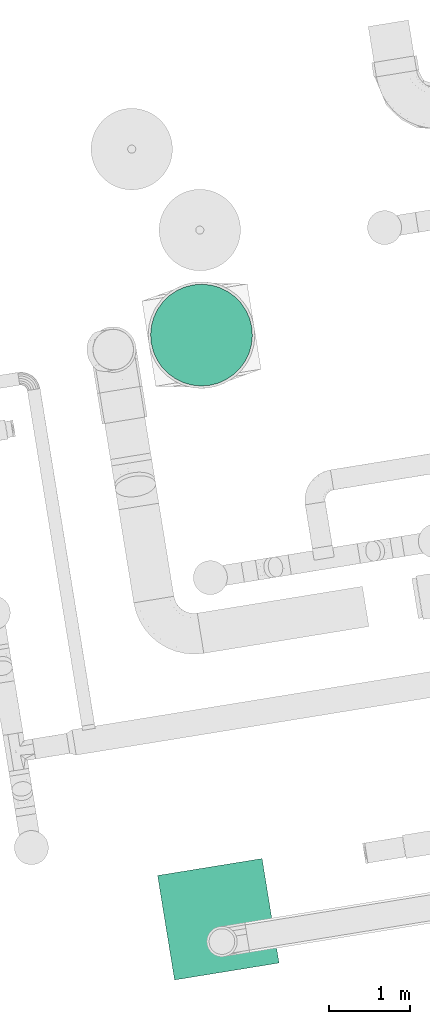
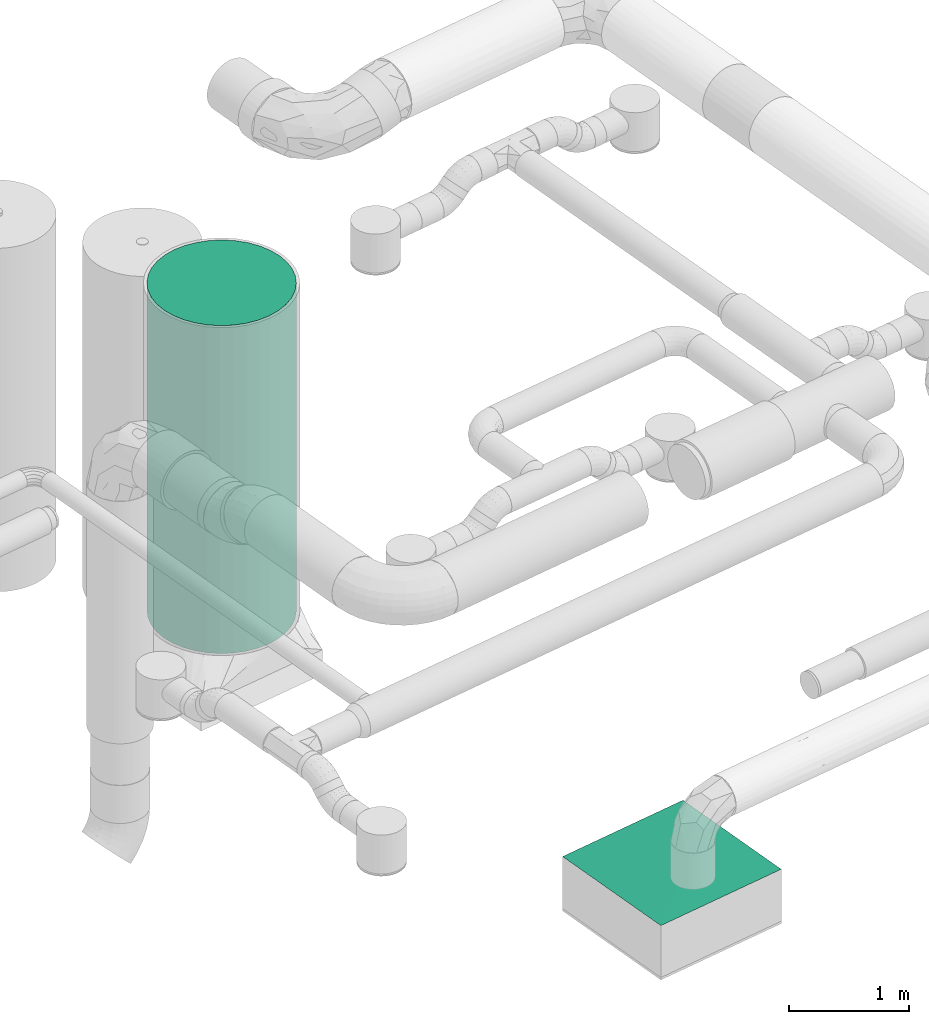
# One storey, part 26 of 39: 1 flow fitting, 1 flow segment.
"""IFC2X3 building model written with IfcOpenShell, lengths in millimetres."""

import ifcopenshell
import ifcopenshell.guid

model = None  # the IFC model being written
_history = None  # IfcOwnerHistory: only IFC2X3 demands one
_inside = {}  # id of a spatial element -> (the spatial element, [elements in it])
_under = {}  # id of a project, library or spatial element -> (it, [spatial elements below it])
_declared = {}  # id of a project -> (the project, [libraries it declares])
_typed = {}  # id of a type object -> (the type object, [elements of that type])
_made_of = {}  # id of a material, layer set ... -> (it, [elements and type objects made of it])


def new_model(schema):
    """Start an empty IFC model of exactly this schema.

    Asked for "IFC4X3", IfcOpenShell would pick the latest addendum, in which some entities
    have other attributes; the version numbers below select the first issue.
    IFC2X3 requires an IfcOwnerHistory on every rooted entity: one is made here for all.
    """
    global model, _history
    if schema == "IFC4X3":
        model = ifcopenshell.file(schema_version=(4, 3, 0, 0))
    else:
        model = ifcopenshell.file(schema=schema)
    _inside.clear()
    _under.clear()
    _declared.clear()
    _typed.clear()
    _made_of.clear()
    _history = None
    if model.schema == "IFC2X3":
        org = make("IfcOrganization", Name="unknown")
        user = make(
            "IfcPersonAndOrganization",
            ThePerson=make("IfcPerson", FamilyName="unknown"),
            TheOrganization=org,
        )
        app = make(
            "IfcApplication",
            ApplicationDeveloper=org,
            Version="unknown",
            ApplicationFullName="unknown",
            ApplicationIdentifier="unknown",
        )
        _history = make(
            "IfcOwnerHistory",
            OwningUser=user,
            OwningApplication=app,
            ChangeAction="ADDED",
            CreationDate=0,
        )
    return model


def make(cls, **values):
    """One entity of the class cls with the attributes given. An attribute that is None is left unset."""
    return model.create_entity(
        cls, **{name: value for name, value in values.items() if value is not None}
    )


def entity(cls, *values):
    """Any entity or typed value of the class cls, its attributes in the order of the schema. None: left unset."""
    e = model.create_entity(cls)
    for i, value in enumerate(values):
        if value is not None:
            e[i] = value
    return e


def rooted(cls, **values):
    """An entity with a GlobalId (a new one), such as an element, a storey or a relation."""
    return make(cls, GlobalId=ifcopenshell.guid.new(), OwnerHistory=_history, **values)


def si_unit(unit_type, name, prefix=None):
    """IfcSIUnit, for example si_unit("LENGTHUNIT", "METRE", prefix="MILLI")."""
    return make("IfcSIUnit", UnitType=unit_type, Prefix=prefix, Name=name)


def converted_unit(unit_type, name, factor, base, dimensions=None, offset=None):
    """IfcConversionBasedUnit, such as the inch: factor (a typed value) times the base unit."""
    return make(
        "IfcConversionBasedUnit"
        if offset is None
        else "IfcConversionBasedUnitWithOffset",
        ConversionOffset=offset,
        Dimensions=None
        if dimensions is None
        else entity("IfcDimensionalExponents", *dimensions),
        UnitType=unit_type,
        Name=name,
        ConversionFactor=make(
            "IfcMeasureWithUnit", ValueComponent=factor, UnitComponent=base
        ),
    )


def derived_unit(unit_type, elements):
    """IfcDerivedUnit: a product of units, each with its exponent."""
    return make(
        "IfcDerivedUnit",
        Elements=[
            make("IfcDerivedUnitElement", Unit=unit, Exponent=power)
            for unit, power in elements
        ],
        UnitType=unit_type,
    )


def assignment(units):
    """IfcUnitAssignment: the units of a project."""
    return None if units is None else make("IfcUnitAssignment", Units=units)


def point(xyz):
    """IfcCartesianPoint."""
    return None if xyz is None else make("IfcCartesianPoint", Coordinates=xyz)


def direction(xyz):
    """IfcDirection."""
    return None if xyz is None else make("IfcDirection", DirectionRatios=xyz)


def frame(location, z_axis=None, x_axis=None):
    """IfcAxis2Placement3D, a coordinate frame: its origin and axes. An axis left out is left unset."""
    return make(
        "IfcAxis2Placement3D",
        Location=point(location),
        Axis=direction(z_axis),
        RefDirection=direction(x_axis),
    )


def origin():
    """The frame at (0, 0, 0) with its axes left unset."""
    return frame((0.0, 0.0, 0.0))


def origin_with_axes():
    """The frame at (0, 0, 0) with the z axis (0, 0, 1) and the x axis (1, 0, 0) written out."""
    return frame((0.0, 0.0, 0.0), z_axis=(0.0, 0.0, 1.0), x_axis=(1.0, 0.0, 0.0))


def place(relative_to, where):
    """IfcLocalPlacement: puts the frame where relative to a parent placement (None: the world)."""
    return make(
        "IfcLocalPlacement", PlacementRelTo=relative_to, RelativePlacement=where
    )


def context(
    kind, dimensions, precision=None, world=None, true_north=None, identifier=None
):
    """IfcGeometricRepresentationContext, for example the 3D "Model" context."""
    return make(
        "IfcGeometricRepresentationContext",
        ContextIdentifier=identifier,
        ContextType=kind,
        CoordinateSpaceDimension=dimensions,
        Precision=precision,
        WorldCoordinateSystem=world,
        TrueNorth=true_north,
    )


def subcontext(parent, identifier, kind, view, scale=None):
    """IfcGeometricRepresentationSubContext, for example "Body" below "Model"."""
    return make(
        "IfcGeometricRepresentationSubContext",
        ContextIdentifier=identifier,
        ContextType=kind,
        ParentContext=parent,
        TargetScale=scale,
        TargetView=view,
    )


def project(units=None, contexts=None):
    """IfcProject with its units and contexts."""
    return rooted(
        "IfcProject",
        Name="project",
        RepresentationContexts=contexts,
        UnitsInContext=assignment(units),
    )


def spatial(cls, under=None, at=None, **own):
    """A site, building, storey or space (cls), placed at a placement, below another one or the project."""
    s = rooted(cls, ObjectPlacement=at, **own)
    if under is not None:
        _under.setdefault(under.id(), (under, []))[1].append(s)
    return s


def faces_of(points, faces, orient=None, outer=None):
    """IfcFace entities. A face is a list of loops; a loop is a list of indices into points, from 0.

    orient and outer hold one flag for each loop. By default every Orientation is true, the
    first loop of a face is its IfcFaceOuterBound and the others are IfcFaceBound.
    """
    made = []
    for i, loops in enumerate(faces):
        bounds = []
        for j, loop in enumerate(loops):
            is_outer = j == 0 if outer is None else outer[i][j]
            bounds.append(
                make(
                    "IfcFaceOuterBound" if is_outer else "IfcFaceBound",
                    Bound=make("IfcPolyLoop", Polygon=[points[k] for k in loop]),
                    Orientation=True if orient is None else orient[i][j],
                )
            )
        made.append(make("IfcFace", Bounds=bounds))
    return made


def faceted_brep(points, faces, orient=None, outer=None, voids=None):
    """IfcFacetedBrep: a solid bounded by flat faces; with voids (closed shells), ...WithVoids."""
    shared = [point(p) for p in points]
    hull = make("IfcClosedShell", CfsFaces=faces_of(shared, faces, orient, outer))
    if voids is None:
        return make("IfcFacetedBrep", Outer=hull)
    return make(
        "IfcFacetedBrepWithVoids",
        Outer=hull,
        Voids=[
            make(cls, CfsFaces=faces_of(shared, fs, o, b)) for cls, fs, o, b in voids
        ],
    )


def shape(context_of_items, identifier, shape_type, items):
    """IfcShapeRepresentation: the items that make up one representation, for example the "Body"."""
    return make(
        "IfcShapeRepresentation",
        ContextOfItems=context_of_items,
        RepresentationIdentifier=identifier,
        RepresentationType=shape_type,
        Items=items,
    )


def source(mapping_origin, context_of_items, identifier, shape_type, items):
    """IfcRepresentationMap: a shape defined once, which mapped items show again and again."""
    return make(
        "IfcRepresentationMap",
        MappingOrigin=mapping_origin,
        MappedRepresentation=shape(context_of_items, identifier, shape_type, items),
    )


def transform(
    local_origin,
    x_axis=None,
    y_axis=None,
    z_axis=None,
    scale=None,
    scale2=None,
    scale3=None,
    uniform=True,
):
    """IfcCartesianTransformationOperator3D, or its non-uniform kind. x_axis, y_axis, z_axis: its Axis1, 2, 3."""
    if uniform:
        return make(
            "IfcCartesianTransformationOperator3D",
            Axis1=direction(x_axis),
            Axis2=direction(y_axis),
            LocalOrigin=point(local_origin),
            Scale=scale,
            Axis3=direction(z_axis),
        )
    return make(
        "IfcCartesianTransformationOperator3DnonUniform",
        Axis1=direction(x_axis),
        Axis2=direction(y_axis),
        LocalOrigin=point(local_origin),
        Scale=scale,
        Axis3=direction(z_axis),
        Scale2=scale2,
        Scale3=scale3,
    )


def mapped(mapping_source, mapping_target):
    """IfcMappedItem: shows the shape of a source again, moved by a transform."""
    return make(
        "IfcMappedItem", MappingSource=mapping_source, MappingTarget=mapping_target
    )


def material(Name=None, Category=None):
    """IfcMaterial."""
    return make("IfcMaterial", Name=Name, Category=Category)


def made_of(thing, what):
    """Note that an element or type object is made of a material, layer set ...; save() writes the relation."""
    if what is not None:
        _made_of.setdefault(what.id(), (what, []))[1].append(thing)
    return thing


def type_object(cls, material=None, **own):
    """A type object (cls), such as IfcWallType, which elements share."""
    return made_of(rooted(cls, **own), material)


def element(
    cls,
    number,
    at=None,
    inside=None,
    cuts=None,
    type_object=None,
    material=None,
    context=None,
    identifier="Body",
    shape_type=None,
    held_by="IfcProductDefinitionShape",
    body=None,
    shapes=None,
    **own,
):
    """One element of the class cls, such as IfcWall. Its Tag is "e" and its number.

    at: its placement. inside: the storey or other place that contains it. cuts: it is an
    opening in that element (IfcRelVoidsElement). A single representation is given by context,
    identifier, shape_type and body (its items); several are given by shapes. held_by: the class
    of the entity that holds the representations. save() writes the other relations.
    """
    e = rooted(cls, Tag="e%d" % number, ObjectPlacement=at, **own)
    if body is not None:
        shapes = [shape(context, identifier, shape_type, body)]
    if shapes is not None:
        e.Representation = make(held_by, Representations=shapes)
    if inside is not None:
        _inside.setdefault(inside.id(), (inside, []))[1].append(e)
    if cuts is not None:
        rooted(
            "IfcRelVoidsElement", RelatingBuildingElement=cuts, RelatedOpeningElement=e
        )
    if type_object is not None:
        _typed.setdefault(type_object.id(), (type_object, []))[1].append(e)
    return made_of(e, material)


def aggregate(whole, parts):
    """IfcRelAggregates: a whole, such as a stair, and the parts it consists of."""
    return rooted("IfcRelAggregates", RelatingObject=whole, RelatedObjects=parts)


def save(model, path):
    """Write the relations noted so far, then the file.

    IfcRelAggregates (storeys below a building ...), IfcRelContainedInSpatialStructure (elements
    in a storey), IfcRelDefinesByType, IfcRelAssociatesMaterial and IfcRelDeclares: one each for
    every whole, place, type object, material and project.
    """
    for whole, parts in _under.values():
        aggregate(whole, parts)
    for where, things in _inside.values():
        rooted(
            "IfcRelContainedInSpatialStructure",
            RelatedElements=things,
            RelatingStructure=where,
        )
    for kind, things in _typed.values():
        rooted("IfcRelDefinesByType", RelatedObjects=things, RelatingType=kind)
    for what, things in _made_of.values():
        rooted("IfcRelAssociatesMaterial", RelatedObjects=things, RelatingMaterial=what)
    for by, libraries in _declared.values():
        rooted("IfcRelDeclares", RelatingContext=by, RelatedDefinitions=libraries)
    model.write(path)


model = new_model("IFC2X3")

# Units and contexts
model_context = context("Model", 3, precision=0.01, world=origin(), true_north=direction((6.12323399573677e-17, 1.0)))
plan_context = context("Plan", 3, precision=1e-05, world=origin_with_axes())
body_context = subcontext(model_context, "Body", "Model", "MODEL_VIEW")
ifc_project = project(units=[converted_unit("PLANEANGLEUNIT", "DEGREE", entity("IfcPositiveLengthMeasure", 0.0174532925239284), si_unit("PLANEANGLEUNIT", "RADIAN"), dimensions=[0, 0, 0, 0, 0, 0, 0]), si_unit("AREAUNIT", "SQUARE_METRE"), si_unit("LENGTHUNIT", "METRE", prefix="MILLI"), si_unit("MASSUNIT", "GRAM", prefix="KILO"), si_unit("POWERUNIT", "WATT"), si_unit("PRESSUREUNIT", "PASCAL", prefix="KILO"), si_unit("FORCEUNIT", "NEWTON", prefix="KILO"), si_unit("ELECTRICVOLTAGEUNIT", "VOLT"), si_unit("ELECTRICCURRENTUNIT", "AMPERE"), si_unit("THERMODYNAMICTEMPERATUREUNIT", "DEGREE_CELSIUS"), si_unit("TIMEUNIT", "SECOND"), si_unit("VOLUMEUNIT", "CUBIC_METRE"), derived_unit("LINEARVELOCITYUNIT", [(si_unit("LENGTHUNIT", "METRE"), 1), (si_unit("TIMEUNIT", "SECOND"), -1)]), derived_unit("VOLUMETRICFLOWRATEUNIT", [(si_unit("VOLUMEUNIT", "CUBIC_METRE"), 1), (si_unit("TIMEUNIT", "SECOND"), -1)]), derived_unit("THERMALTRANSMITTANCEUNIT", [(si_unit("POWERUNIT", "WATT"), 1), (si_unit("THERMODYNAMICTEMPERATUREUNIT", "KELVIN"), -1), (si_unit("AREAUNIT", "SQUARE_METRE"), -1)]), derived_unit("SOUNDPRESSUREUNIT", [(si_unit("PRESSUREUNIT", "PASCAL"), 1)])], contexts=[model_context, plan_context])

# Site, building, storey
site_placement = place(None, frame((-0.00071070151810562, 0.00438415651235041, 0.0), z_axis=(0.0, 0.0, 1.0), x_axis=(-0.160236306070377, 0.987078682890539, 0.0)))
site = spatial("IfcSite", under=ifc_project, at=site_placement, Name="Default", CompositionType="ELEMENT")
building_placement = place(site_placement, origin_with_axes())
building = spatial("IfcBuilding", under=site, at=building_placement, CompositionType="ELEMENT")
storey_placement = place(building_placement, frame((0.0, 0.0, 50999.9999999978), z_axis=(0.0, 0.0, 1.0), x_axis=(1.0, 0.0, 0.0)))
storey = spatial("IfcBuildingStorey", under=building, at=storey_placement, Name="Nivå D", CompositionType="ELEMENT", Elevation=50999.9999999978)

# Flow fitting
ifc_material = material(Name="Material_Duct")
duct_fitting_type = type_object("IfcDuctFittingType", Name="magicirc_multi_shape_trans_001:magicirc_multi_shape_trans_001", PredefinedType="NOTDEFINED", material=ifc_material)
shared_shape = source(origin(), body_context, "Body", "Brep", [
    faceted_brep([(10.0, 237.022991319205, -152.133317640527), (10.0, 262.686560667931, -155.511990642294), (10.0, 277.786990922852, -157.499999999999), (10.0, 296.267684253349, -155.066970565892), (10.0, 318.550990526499, -152.133317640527), (10.0, 337.543990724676, -144.266159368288), (10.0, 356.536990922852, -136.399001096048), (10.0, 372.846649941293, -123.884159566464), (10.0, 389.156308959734, -111.36931803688), (10.0, 401.671150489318, -95.0596590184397), (10.0, 414.185992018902, -78.7499999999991), (10.0, 418.119571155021, -69.2534999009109), (10.0, 422.053150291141, -59.7569998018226), (10.0, 429.920308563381, -40.7639996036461), (10.0, 432.853961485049, -18.4806933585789), (10.0, 435.286990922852, 0.0), (10.0, 432.853961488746, 18.4806933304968), (10.0, 429.920308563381, 40.7639996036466), (10.0, 422.053150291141, 59.7569998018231), (10.0, 414.185992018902, 78.7499999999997), (10.0, 401.671150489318, 95.0596590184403), (10.0, 389.156308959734, 111.369318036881), (10.0, 372.846649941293, 123.884159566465), (10.0, 356.536990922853, 136.399001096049), (10.0, 347.040490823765, 140.332580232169), (10.0, 337.543990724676, 144.266159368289), (10.0, 318.5509905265, 152.133317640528), (10.0, 296.267684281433, 155.066970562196), (10.0, 277.786990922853, 157.5), (10.0, 262.686560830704, 155.511990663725), (10.0, 237.022991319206, 152.133317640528), (10.0, 218.029991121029, 144.266159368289), (10.0, 199.036990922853, 136.399001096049), (10.0, 182.727331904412, 123.884159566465), (10.0, 166.417672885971, 111.369318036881), (10.0, 153.902831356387, 95.0596590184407), (10.0, 141.387989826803, 78.7500000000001), (10.0, 133.520831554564, 59.7569998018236), (10.0, 125.653673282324, 40.7639996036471), (10.0, 122.275000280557, 15.1004302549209), (10.0, 120.286990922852, 0.0), (10.0, 122.275000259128, -15.1004300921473), (10.0, 125.653673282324, -40.7639996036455), (10.0, 133.520831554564, -59.756999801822), (10.0, 141.387989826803, -78.7499999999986), (10.0, 153.902831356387, -95.0596590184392), (10.0, 166.417672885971, -111.36931803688), (10.0, 182.727331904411, -123.884159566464), (10.0, 199.036990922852, -136.399001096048), (10.0, 218.029991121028, -144.266159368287), (0.0, -650.0, 650.0), (0.0, 650.0, 650.0), (0.0, 650.0, -650.0), (0.0, -650.0, -650.0), (5.57157114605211, -220.829122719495, 287.847875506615), (6.42658140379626, -95.4588482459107, 324.498018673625), (3.89289294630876, -315.637000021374, 452.100620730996), (6.63310997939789, -93.2194982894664, 305.31587052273), (8.89289278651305, 35.0079625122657, 71.9619688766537), (7.78578557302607, -50.2710658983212, 143.923937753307), (4.17867854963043, -262.307640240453, 444.200081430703), (7.04839735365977, -28.9970224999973, 297.86737466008), (5.57157139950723, -133.076853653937, 375.60010857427), (2.6956321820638, -431.693052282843, 502.924739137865), (5.0, -237.128754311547, 384.985769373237), (4.33514327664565, -307.509305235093, 401.316805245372), (1.39289278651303, -542.707280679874, 559.461968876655), (2.78578557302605, -435.414561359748, 468.923937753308), (8.89289284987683, 175.071029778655, 212.025027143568), (7.78578569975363, 72.3550686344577, 266.550054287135), (6.56698463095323, -132.1578938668, 271.49428102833), (7.26062208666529, -84.8827093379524, 214.139740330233), (4.17867835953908, -328.121842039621, 378.385906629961), (2.78578569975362, -391.538426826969, 512.800054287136), (7.04171293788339, -82.0422208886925, 263.094621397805), (7.5670191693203, -28.5005193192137, 245.974828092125), (1.39289284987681, -520.769213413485, 581.400027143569), (1.39289284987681, -542.707275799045, -559.461964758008), (2.78578569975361, -435.414551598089, -468.923929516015), (4.17867854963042, -328.121827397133, -378.385894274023), (5.57157139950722, -220.829103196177, -287.847859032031), (7.78578569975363, -50.2710561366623, -143.923929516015), (8.89289284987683, 35.0079673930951, -71.9619647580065), (5.5715711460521, -133.076877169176, -375.600121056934), (6.42658140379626, -145.975947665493, -273.980919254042), (3.89289294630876, -343.961118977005, -423.776501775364), (6.63310997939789, -121.056704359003, -277.478664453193), (8.89289278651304, 175.071023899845, -212.025030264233), (7.78578557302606, 72.3550568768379, -266.550060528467), (7.04839735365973, -102.072065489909, -224.792331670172), (2.69563218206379, -428.043583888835, -506.574207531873), (5.0, -246.092273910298, -376.022249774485), (4.33514327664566, -280.892164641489, -427.933945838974), (1.39289278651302, -520.769219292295, -581.400030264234), (2.78578557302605, -391.538438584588, -512.800060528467), (6.56698463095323, -89.0719910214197, -314.58018387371), (7.26062208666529, -12.4491041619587, -286.573345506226), (4.17867835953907, -262.307657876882, -444.200090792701), (7.0417129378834, -67.4849966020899, -277.651845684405), (7.5670191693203, -35.7728795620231, -238.702467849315), (2.10686611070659, 571.579702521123, -546.2368440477), (4.21373222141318, 493.159405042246, -442.473688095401), (4.93701569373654, 466.237853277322, -406.851977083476), (5.6602991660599, 439.316301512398, -371.23026607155), (7.10686611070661, 385.473197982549, -299.9868440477), (8.55343305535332, 331.630094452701, -228.743422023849), (6.42782437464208, 457.491440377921, -321.992485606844), (5.0, 513.1996637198, -386.404106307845), (8.55343299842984, 466.346666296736, -94.0268551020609), (5.66029899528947, 528.466017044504, -282.080565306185), (7.10686599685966, 497.40634167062, -188.053710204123), (6.42782443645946, 500.549083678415, -278.934836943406), (5.71013844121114, 507.910511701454, -334.743987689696), (4.21373199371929, 559.525692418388, -376.107420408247), (2.10686599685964, 604.762846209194, -513.053710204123), (2.10686611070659, 604.762843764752, 513.053702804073), (4.21373222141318, 559.525687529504, 376.107405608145), (4.93701569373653, 543.995850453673, 329.093979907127), (5.66029916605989, 528.466013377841, 282.080554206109), (7.1068661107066, 497.406339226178, 188.053702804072), (8.55343305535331, 466.346665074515, 94.026851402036), (6.42782437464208, 500.549084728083, 278.934841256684), (5.0, 525.297601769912, 374.306168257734), (8.55343299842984, 331.630096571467, 228.743424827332), (5.66029899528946, 439.316307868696, 371.230274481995), (7.10686599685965, 385.473202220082, 299.986849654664), (6.42782443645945, 457.491437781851, 321.992482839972), (5.71013844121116, 493.36420522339, 349.290294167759), (4.21373199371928, 493.15941351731, 442.473699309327), (2.10686599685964, 571.579706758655, 546.236849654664)], [[[0, 1, 2, 3, 4, 5, 6, 7, 8, 9, 10, 11, 12, 13, 14, 15, 16, 17, 18, 19, 20, 21, 22, 23, 24, 25, 26, 27, 28, 29, 30, 31, 32, 33, 34, 35, 36, 37, 38, 39, 40, 41, 42, 43, 44, 45, 46, 47, 48, 49]], [[50, 51, 52, 53]], [[54, 38, 37]], [[55, 56, 57]], [[58, 40, 39, 38, 54, 59]], [[60, 61, 62]], [[56, 63, 64]], [[65, 66, 67]], [[64, 63, 65]], [[29, 28, 68, 69, 62, 30]], [[61, 60, 55]], [[70, 36, 35]], [[71, 70, 72]], [[55, 73, 56]], [[74, 35, 34]], [[74, 34, 75]], [[71, 54, 37]], [[63, 50, 66]], [[70, 35, 74]], [[70, 74, 65]], [[65, 67, 70]], [[64, 65, 74]], [[70, 67, 72]], [[54, 71, 72]], [[37, 36, 71]], [[70, 71, 36]], [[65, 63, 66]], [[63, 56, 76]], [[76, 56, 73]], [[76, 50, 63]], [[33, 57, 75]], [[56, 64, 57]], [[55, 33, 32]], [[32, 61, 55]], [[75, 57, 64]], [[33, 55, 57]], [[74, 75, 64]], [[33, 75, 34]], [[62, 31, 30]], [[32, 31, 61]], [[60, 73, 55]], [[31, 62, 61]], [[50, 53, 77, 78, 79, 80, 81, 82, 40, 58, 59, 54, 72, 67, 66]], [[83, 0, 49]], [[84, 85, 86]], [[87, 2, 1, 0, 83, 88]], [[79, 89, 80]], [[85, 90, 91]], [[92, 93, 94]], [[91, 90, 92]], [[41, 40, 82, 81, 80, 42]], [[89, 79, 84]], [[95, 48, 47]], [[96, 95, 97]], [[84, 78, 85]], [[98, 47, 46]], [[98, 46, 99]], [[96, 83, 49]], [[90, 53, 93]], [[95, 47, 98]], [[95, 98, 92]], [[92, 94, 95]], [[91, 92, 98]], [[95, 94, 97]], [[83, 96, 97]], [[49, 48, 96]], [[95, 96, 48]], [[92, 90, 93]], [[90, 85, 77]], [[77, 85, 78]], [[77, 53, 90]], [[45, 86, 99]], [[85, 91, 86]], [[84, 45, 44]], [[44, 89, 84]], [[99, 86, 91]], [[45, 84, 86]], [[98, 99, 91]], [[45, 99, 46]], [[80, 43, 42]], [[44, 43, 89]], [[79, 78, 84]], [[43, 80, 89]], [[87, 88, 83, 97, 94, 93, 53, 52, 100, 101, 102, 103, 104, 105, 2]], [[101, 5, 103, 102]], [[106, 107, 7]], [[108, 15, 14, 13, 109, 110]], [[103, 4, 3, 2, 105, 104]], [[52, 107, 100]], [[111, 10, 9]], [[8, 107, 112]], [[113, 12, 11, 10]], [[109, 13, 12]], [[101, 6, 5]], [[4, 103, 5]], [[12, 113, 109]], [[101, 100, 106]], [[9, 8, 112]], [[113, 10, 111]], [[7, 6, 106]], [[107, 8, 7]], [[112, 52, 114]], [[52, 112, 107]], [[111, 112, 114]], [[101, 106, 6]], [[107, 106, 100]], [[112, 111, 9]], [[113, 111, 114]], [[52, 51, 115, 116, 117, 118, 119, 120, 15, 108, 110, 109, 113, 114]], [[116, 18, 118, 117]], [[121, 122, 20]], [[123, 28, 27, 26, 124, 125]], [[118, 17, 16, 15, 120, 119]], [[51, 122, 115]], [[126, 23, 22]], [[21, 122, 127]], [[128, 25, 24, 23]], [[124, 26, 25]], [[116, 19, 18]], [[17, 118, 18]], [[25, 128, 124]], [[116, 115, 121]], [[22, 21, 127]], [[128, 23, 126]], [[20, 19, 121]], [[122, 21, 20]], [[127, 51, 129]], [[51, 127, 122]], [[126, 127, 129]], [[116, 121, 19]], [[122, 121, 115]], [[127, 126, 22]], [[128, 126, 129]], [[51, 50, 76, 73, 60, 62, 69, 68, 28, 123, 125, 124, 128, 129]]]),
])
flow_fitting_placement = place(storey_placement, frame((769512.619644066, -595189.746741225, 2555.0), z_axis=(0.0, -1.0, 0.0), x_axis=(0.0, 0.0, 1.0)))
element("IfcFlowFitting", 1, at=flow_fitting_placement, inside=storey, type_object=duct_fitting_type, material=ifc_material, Name="magicirc_multi_shape_trans_001:magicirc_multi_shape_trans_001", ObjectType="magicirc_multi_shape_trans_001:magicirc_multi_shape_trans_001", context=body_context, shape_type="MappedRepresentation", body=[
    mapped(shared_shape, transform((0.0, 0.0, 0.0), scale=1.0)),
])

# Flow segment
duct_segment_type = type_object("IfcDuctSegmentType", Name="Round Duct:KK001T - Spiro kanaler, Forsinket stål", PredefinedType="NOTDEFINED")
flow_segment_placement = place(storey_placement, origin_with_axes())
element("IfcFlowSegment", 2, at=flow_segment_placement, inside=storey, type_object=duct_segment_type, Name="Round Duct:KK001T - Spiro kanaler, Forsinket stål", ObjectType="Round Duct:KK001T - Spiro kanaler, Forsinket stål", context=body_context, shape_type="Brep", body=[
    faceted_brep([(776517.922586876, -596750.591457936, 4200.0), (776626.452697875, -596760.086612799, 4200.0), (776626.452697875, -596760.086612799, 852.130781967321), (776517.922586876, -596750.591457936, 852.130781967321), (776734.98280896, -596750.591458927, 4200.0), (776734.98280896, -596750.591458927, 852.130781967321), (776840.215287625, -596722.394501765, 4200.0), (776840.215287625, -596722.394501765, 852.130781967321), (776938.952698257, -596676.35249159, 4200.0), (776938.952698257, -596676.35249159, 852.130781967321), (777028.194954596, -596613.864391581, 4200.0), (777028.194954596, -596613.864391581, 852.130781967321), (777105.230475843, -596536.828871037, 4200.0), (777105.230475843, -596536.828871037, 852.130781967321), (777167.718576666, -596447.586615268, 4200.0), (777167.718576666, -596447.586615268, 852.130781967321), (777213.760587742, -596348.849205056, 4200.0), (777213.760587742, -596348.849205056, 852.130781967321), (777241.957545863, -596243.616726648, 4200.0), (777241.957545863, -596243.616726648, 852.130781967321), (777251.452700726, -596135.08661565, 4200.0), (777251.452700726, -596135.08661565, 852.130781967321), (777241.957546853, -596026.556504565, 4200.0), (777241.957546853, -596026.556504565, 852.130781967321), (777213.760589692, -595921.324025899, 4200.0), (777213.760589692, -595921.324025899, 852.130781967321), (777167.718579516, -595822.586615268, 4200.0), (777167.718579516, -595822.586615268, 852.130781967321), (777105.230479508, -595733.344358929, 4200.0), (777105.230479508, -595733.344358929, 852.130781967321), (777028.194958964, -595656.308837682, 4200.0), (777028.194958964, -595656.308837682, 852.130781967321), (776938.952703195, -595593.820736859, 4200.0), (776938.952703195, -595593.820736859, 852.130781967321), (776840.215292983, -595547.778725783, 4200.0), (776840.215292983, -595547.778725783, 852.130781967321), (776734.982814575, -595519.581767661, 4200.0), (776734.982814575, -595519.581767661, 852.130781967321), (776626.452703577, -595510.086612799, 4200.0), (776626.452703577, -595510.086612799, 852.130781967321), (776517.922592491, -595519.581766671, 4200.0), (776517.922592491, -595519.581766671, 852.130781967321), (776412.690113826, -595547.778723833, 4200.0), (776412.690113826, -595547.778723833, 852.130781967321), (776313.952703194, -595593.820734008, 4200.0), (776313.952703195, -595593.820734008, 852.130781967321), (776224.710446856, -595656.308834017, 4200.0), (776224.710446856, -595656.308834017, 852.130781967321), (776147.674925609, -595733.344354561, 4200.0), (776147.674925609, -595733.344354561, 852.130781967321), (776085.186824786, -595822.58661033, 4200.0), (776085.186824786, -595822.58661033, 852.130781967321), (776039.144813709, -595921.324020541, 4200.0), (776039.14481371, -595921.324020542, 852.130781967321), (776010.947855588, -596026.55649895, 4200.0), (776010.947855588, -596026.55649895, 852.130781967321), (776001.452700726, -596135.086609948, 4200.0), (776001.452700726, -596135.086609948, 852.130781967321), (776010.947854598, -596243.616721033, 4200.0), (776010.947854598, -596243.616721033, 852.130781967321), (776039.144811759, -596348.849199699, 4200.0), (776039.14481176, -596348.849199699, 852.130781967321), (776085.186821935, -596447.58661033, 4200.0), (776085.186821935, -596447.58661033, 852.130781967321), (776147.674921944, -596536.828866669, 4200.0), (776147.674921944, -596536.828866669, 852.130781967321), (776224.710442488, -596613.864387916, 4200.0), (776224.710442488, -596613.864387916, 852.130781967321), (776313.952698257, -596676.352488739, 4200.0), (776313.952698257, -596676.352488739, 852.130781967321), (776412.690108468, -596722.394499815, 4200.0), (776412.690108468, -596722.394499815, 852.130781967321)], [[[0, 1, 2, 3]], [[1, 4, 5, 2]], [[4, 6, 7, 5]], [[6, 8, 9, 7]], [[8, 10, 11, 9]], [[10, 12, 13, 11]], [[12, 14, 15, 13]], [[14, 16, 17, 15]], [[16, 18, 19, 17]], [[18, 20, 21, 19]], [[20, 22, 23, 21]], [[22, 24, 25, 23]], [[24, 26, 27, 25]], [[26, 28, 29, 27]], [[28, 30, 31, 29]], [[30, 32, 33, 31]], [[32, 34, 35, 33]], [[34, 36, 37, 35]], [[36, 38, 39, 37]], [[38, 40, 41, 39]], [[40, 42, 43, 41]], [[42, 44, 45, 43]], [[44, 46, 47, 45]], [[46, 48, 49, 47]], [[48, 50, 51, 49]], [[50, 52, 53, 51]], [[52, 54, 55, 53]], [[54, 56, 57, 55]], [[56, 58, 59, 57]], [[58, 60, 61, 59]], [[60, 62, 63, 61]], [[62, 64, 65, 63]], [[64, 66, 67, 65]], [[66, 68, 69, 67]], [[68, 70, 71, 69]], [[70, 0, 3, 71]], [[3, 2, 5, 7, 9, 11, 13, 15, 17, 19, 21, 23, 25, 27, 29, 31, 33, 35, 37, 39, 41, 43, 45, 47, 49, 51, 53, 55, 57, 59, 61, 63, 65, 67, 69, 71]], [[70, 68, 66, 64, 62, 60, 58, 56, 54, 52, 50, 48, 46, 44, 42, 40, 38, 36, 34, 32, 30, 28, 26, 24, 22, 20, 18, 16, 14, 12, 10, 8, 6, 4, 1, 0]]], orient=[[False], [False], [False], [False], [False], [False], [False], [False], [False], [False], [False], [False], [False], [False], [False], [False], [False], [False], [False], [False], [False], [False], [False], [False], [False], [False], [False], [False], [False], [False], [False], [False], [False], [False], [False], [False], [False], [False]]),
])

save(model, "model.ifc")
